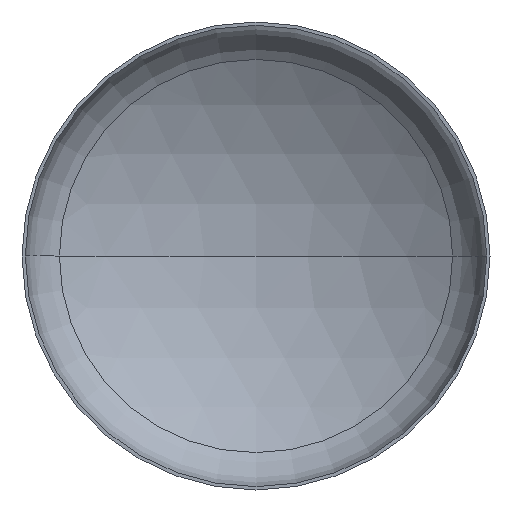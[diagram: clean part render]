
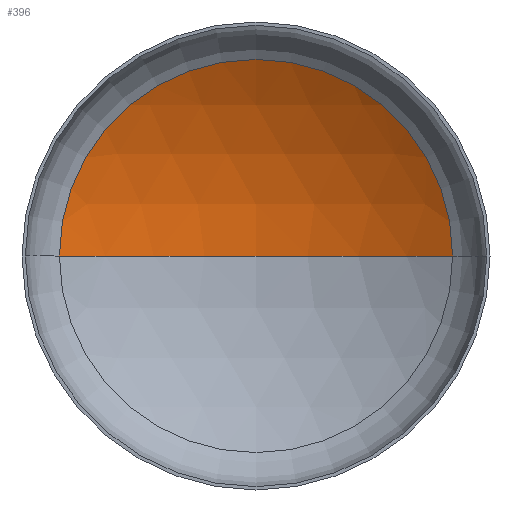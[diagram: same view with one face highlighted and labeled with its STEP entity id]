
A CAD part, front view. The second image highlights one B-rep face of the part: STEP entity #396.
In plain terms, the highlighted spherical face has radius 2560 mm.
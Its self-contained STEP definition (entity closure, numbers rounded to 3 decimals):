
#2 = DIRECTION ( 'NONE',  ( 0., 0., -1. ) ) ;
#7 = CARTESIAN_POINT ( 'NONE',  ( 0., -1691.627, 0. ) ) ;
#27 = AXIS2_PLACEMENT_3D ( 'NONE', #227, #352, #144 ) ;
#33 = VERTEX_POINT ( 'NONE', #248 ) ;
#35 = AXIS2_PLACEMENT_3D ( 'NONE', #387, #249, #410 ) ;
#70 = VERTEX_POINT ( 'NONE', #241 ) ;
#74 = ORIENTED_EDGE ( 'NONE', *, *, #340, .T. ) ;
#110 = ORIENTED_EDGE ( 'NONE', *, *, #384, .F. ) ;
#144 = DIRECTION ( 'NONE',  ( -1., 0., 0. ) ) ;
#160 = CIRCLE ( 'NONE', #35, 1344.309 ) ;
#172 = ORIENTED_EDGE ( 'NONE', *, *, #344, .T. ) ;
#204 = AXIS2_PLACEMENT_3D ( 'NONE', #274, #231, #392 ) ;
#207 = SPHERICAL_SURFACE ( 'NONE', #240, 2560. ) ;
#227 = CARTESIAN_POINT ( 'NONE',  ( 0., -1691.627, 0. ) ) ;
#230 = CARTESIAN_POINT ( 'NONE',  ( -1344.309, 487.004, 0. ) ) ;
#231 = DIRECTION ( 'NONE',  ( 0., 0., 1. ) ) ;
#238 = EDGE_LOOP ( 'NONE', ( #110, #172, #74 ) ) ;
#240 = AXIS2_PLACEMENT_3D ( 'NONE', #7, #2, #271 ) ;
#241 = CARTESIAN_POINT ( 'NONE',  ( 0., 868.373, 0. ) ) ;
#248 = CARTESIAN_POINT ( 'NONE',  ( 1344.309, 487.004, 0. ) ) ;
#249 = DIRECTION ( 'NONE',  ( 0., -1., 0. ) ) ;
#268 = CIRCLE ( 'NONE', #204, 2560. ) ;
#271 = DIRECTION ( 'NONE',  ( -1., 0., 0. ) ) ;
#274 = CARTESIAN_POINT ( 'NONE',  ( 0., -1691.627, 0. ) ) ;
#321 = FACE_OUTER_BOUND ( 'NONE', #238, .T. ) ;
#340 = EDGE_CURVE ( 'NONE', #33, #403, #160, .T. ) ;
#344 = EDGE_CURVE ( 'NONE', #70, #33, #407, .T. ) ;
#352 = DIRECTION ( 'NONE',  ( 0., 0., -1. ) ) ;
#384 = EDGE_CURVE ( 'NONE', #70, #403, #268, .T. ) ;
#387 = CARTESIAN_POINT ( 'NONE',  ( 0., 487.004, 0. ) ) ;
#392 = DIRECTION ( 'NONE',  ( 1., 0., 0. ) ) ;
#396 = ADVANCED_FACE ( 'NONE', ( #321 ), #207, .F. ) ;
#403 = VERTEX_POINT ( 'NONE', #230 ) ;
#407 = CIRCLE ( 'NONE', #27, 2560. ) ;
#410 = DIRECTION ( 'NONE',  ( 1., 0., 0. ) ) ;
